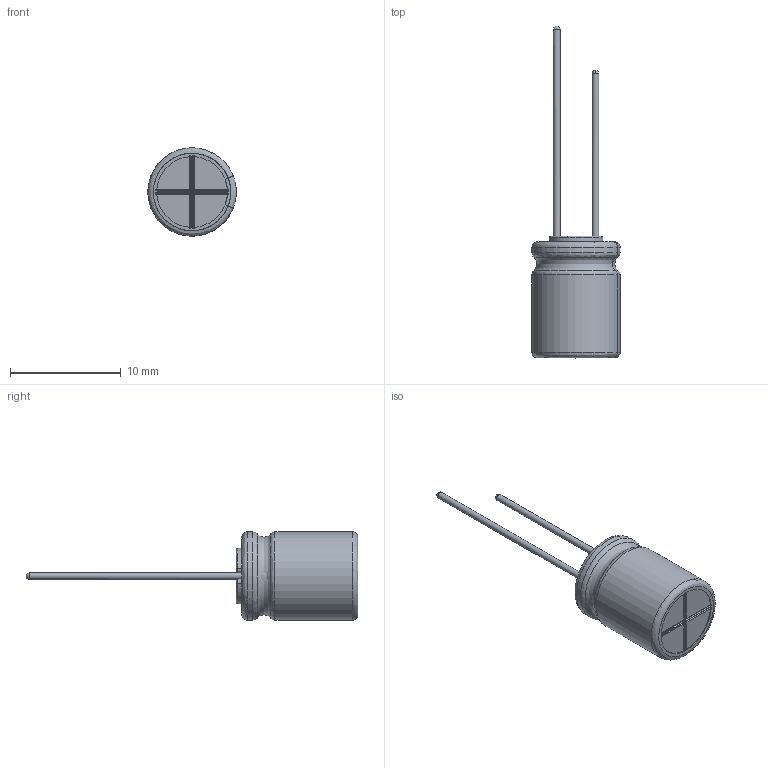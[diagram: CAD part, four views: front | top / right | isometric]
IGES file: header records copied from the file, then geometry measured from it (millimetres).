
Start section: JAMA-IS VERSION  1.0
Bounding box: 7.99 x 30 x 8 mm (x, y, z)
Surface area: 1003.7 mm2 (no closed solid volume)
Topology: 0 solids, 0 shells, 115 faces, 1347 edges, 1328 vertices
Faces by surface type: bspline 115
